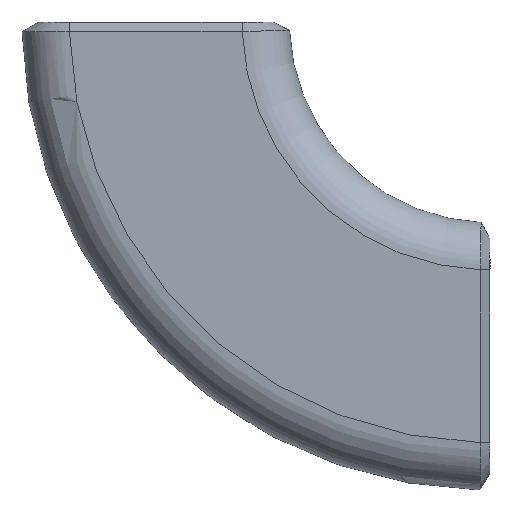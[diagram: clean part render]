
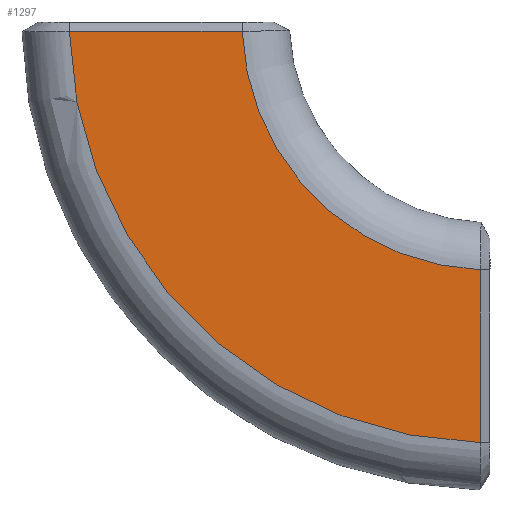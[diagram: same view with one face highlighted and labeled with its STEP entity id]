
A CAD part, left-side view. The second image highlights one B-rep face of the part: STEP entity #1297.
In plain terms, the highlighted planar face has unit normal (-1, 0, 0).
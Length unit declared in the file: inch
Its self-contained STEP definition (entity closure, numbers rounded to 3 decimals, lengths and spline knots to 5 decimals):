
#301=CARTESIAN_POINT('',(-1.5,-3.64175,-4.71751));
#302=VERTEX_POINT('',#301);
#369=CARTESIAN_POINT('',(-1.5,-3.64175,-2.77914));
#370=VERTEX_POINT('',#369);
#378=CARTESIAN_POINT('',(-1.5,-3.64175,-2.77914));
#379=CARTESIAN_POINT('',(-1.5,-3.64175,-2.87122));
#380=CARTESIAN_POINT('',(-1.5,-3.64175,-3.05662));
#381=CARTESIAN_POINT('',(-1.5,-3.64175,-3.51717));
#382=CARTESIAN_POINT('',(-1.5,-3.64175,-3.97947));
#383=CARTESIAN_POINT('',(-1.5,-3.64175,-4.43999));
#384=CARTESIAN_POINT('',(-1.5,-3.64175,-4.62545));
#385=CARTESIAN_POINT('',(-1.5,-3.64175,-4.71751));
#386=B_SPLINE_CURVE_WITH_KNOTS('',3,(#378,#379,#380,#381,#382,#383,#384,#385),.UNSPECIFIED.,.F.,.U.,(4,1,1,1,1,4),(-17.35522,-16.65201,-15.94881,-13.83918,-13.13598,-12.43277),.UNSPECIFIED.);
#387=EDGE_CURVE('',#370,#302,#386,.T.);
#607=CARTESIAN_POINT('',(-1.5,-0.97069,-0.10379));
#608=VERTEX_POINT('',#607);
#619=CARTESIAN_POINT('',(-1.5,-3.75,0.0));
#620=DIRECTION('',(-1.0,0.0,0.0));
#621=DIRECTION('',(0.0,1.0,0.0));
#622=AXIS2_PLACEMENT_3D('',#619,#620,#621);
#623=CIRCLE('',#622,2.78125);
#624=EDGE_CURVE('',#608,#370,#623,.T.);
#905=CARTESIAN_POINT('',(-1.5,0.96761,-0.10379));
#906=VERTEX_POINT('',#905);
#996=CARTESIAN_POINT('',(-1.5,0.96761,-0.10379));
#997=CARTESIAN_POINT('',(-1.5,0.87555,-0.10379));
#998=CARTESIAN_POINT('',(-1.5,0.69018,-0.10379));
#999=CARTESIAN_POINT('',(-1.5,0.22956,-0.10379));
#1000=CARTESIAN_POINT('',(-1.5,-0.23266,-0.10379));
#1001=CARTESIAN_POINT('',(-1.5,-0.69331,-0.10379));
#1002=CARTESIAN_POINT('',(-1.5,-0.87861,-0.10379));
#1003=CARTESIAN_POINT('',(-1.5,-0.97069,-0.10379));
#1004=B_SPLINE_CURVE_WITH_KNOTS('',3,(#996,#997,#998,#999,#1000,#1001,#1002,#1003),.UNSPECIFIED.,.F.,.U.,(4,1,1,1,1,4),(6.29632,6.9995,7.70269,9.81223,10.51541,11.21859),.UNSPECIFIED.);
#1005=EDGE_CURVE('',#906,#608,#1004,.T.);
#1280=CARTESIAN_POINT('',(-1.5,0.0,0.0));
#1281=DIRECTION('',(-1.0,0.0,0.0));
#1282=DIRECTION('',(0.0,0.0,1.0));
#1283=AXIS2_PLACEMENT_3D('',#1280,#1281,#1282);
#1284=PLANE('',#1283);
#1285=ORIENTED_EDGE('',*,*,#387,.F.);
#1286=ORIENTED_EDGE('',*,*,#624,.F.);
#1287=ORIENTED_EDGE('',*,*,#1005,.F.);
#1288=CARTESIAN_POINT('',(-1.5,-3.75,0.0));
#1289=DIRECTION('',(-1.0,0.0,0.0));
#1290=DIRECTION('',(0.0,1.0,0.0));
#1291=AXIS2_PLACEMENT_3D('',#1288,#1289,#1290);
#1292=CIRCLE('',#1291,4.71875);
#1293=EDGE_CURVE('',#906,#302,#1292,.T.);
#1294=ORIENTED_EDGE('',*,*,#1293,.T.);
#1295=EDGE_LOOP('',(#1285,#1286,#1287,#1294));
#1296=FACE_OUTER_BOUND('',#1295,.T.);
#1297=ADVANCED_FACE('',(#1296),#1284,.T.);
